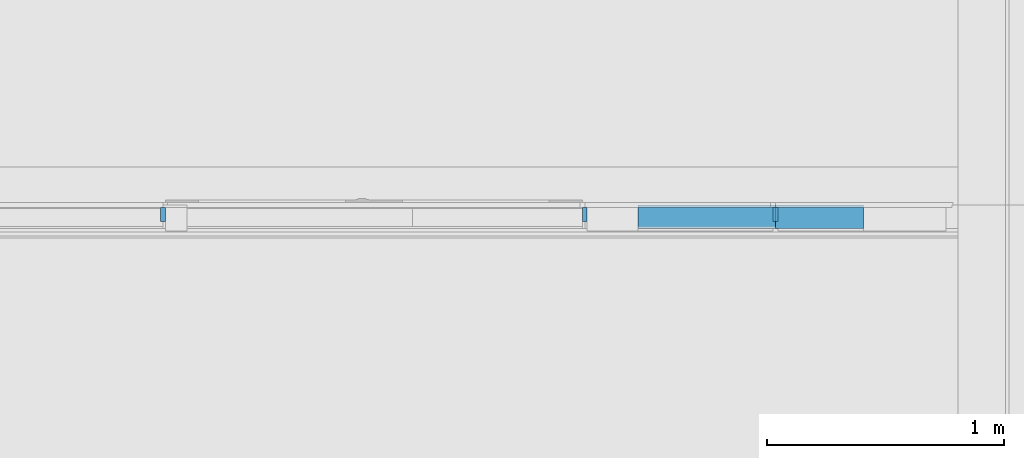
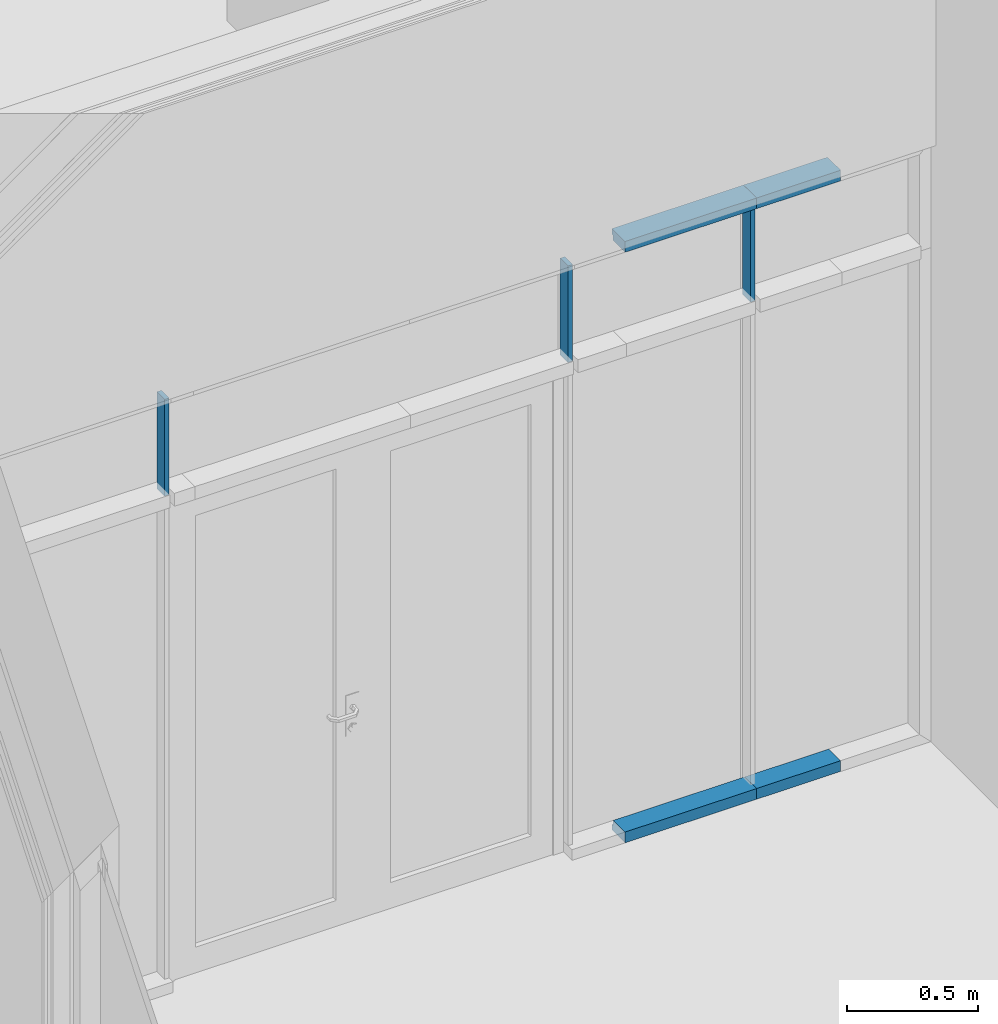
# One storey, part 47 of 260: 7 members, 1 element without a shape of its own.
"""IFC2X3 building model written with IfcOpenShell, lengths in millimetres."""

from ifc_helpers import new_model, entity, si_unit, converted_unit, derived_unit, money_unit, direction, frame, origin_with_axes, place, context, subcontext, project, spatial, faceted_brep, source, transform, mapped, material, type_object, element, aggregate, save


model = new_model("IFC2X3")

# Units and contexts
model_context = context("Model", 3, precision=0.01, world=origin_with_axes(), true_north=direction((0.0, 1.0)))
body_context = subcontext(model_context, "Body", "Model", "MODEL_VIEW")
ifc_project = project(units=[si_unit("LENGTHUNIT", "METRE", prefix="MILLI"), si_unit("AREAUNIT", "SQUARE_METRE"), si_unit("VOLUMEUNIT", "CUBIC_METRE"), converted_unit("PLANEANGLEUNIT", "DEGREE", entity("IfcPlaneAngleMeasure", 0.0174532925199), si_unit("PLANEANGLEUNIT", "RADIAN"), dimensions=[0, 0, 0, 0, 0, 0, 0]), money_unit("EUR"), converted_unit("TIMEUNIT", "Year", entity("IfcTimeMeasure", 31556926.0), si_unit("TIMEUNIT", "SECOND"), dimensions=[0, 0, 1, 0, 0, 0, 0]), si_unit("MASSUNIT", "GRAM", prefix="KILO"), si_unit("THERMODYNAMICTEMPERATUREUNIT", "DEGREE_CELSIUS"), si_unit("LUMINOUSINTENSITYUNIT", "LUMEN"), si_unit("ENERGYUNIT", "JOULE", prefix="MEGA"), derived_unit("THERMALCONDUCTANCEUNIT", [(si_unit("POWERUNIT", "WATT"), 1), (si_unit("LENGTHUNIT", "METRE"), -1), (si_unit("THERMODYNAMICTEMPERATUREUNIT", "KELVIN"), -1)]), derived_unit("SPECIFICHEATCAPACITYUNIT", [(si_unit("ENERGYUNIT", "JOULE"), 1), (si_unit("MASSUNIT", "GRAM", prefix="KILO"), -1), (si_unit("THERMODYNAMICTEMPERATUREUNIT", "KELVIN"), -1)]), derived_unit("MASSDENSITYUNIT", [(si_unit("MASSUNIT", "GRAM", prefix="KILO"), 1), (si_unit("VOLUMEUNIT", "CUBIC_METRE"), -1)])], contexts=[model_context])

# Site, building, storey
site_placement = place(None, origin_with_axes())
site = spatial("IfcSite", under=ifc_project, at=site_placement, Name="Kolde pst 67a", CompositionType="ELEMENT")
building_placement = place(site_placement, origin_with_axes())
building = spatial("IfcBuilding", under=site, at=building_placement, Name="Riigigümnaasium", CompositionType="ELEMENT")
storey_placement = place(building_placement, origin_with_axes())
storey = spatial("IfcBuildingStorey", under=building, at=storey_placement, Name="1. korrus", CompositionType="ELEMENT", Elevation=0.0)

# Curtain wall, members
curtain_wall_type = type_object("IfcCurtainWallType", Name="Curtain Wall Type", PredefinedType="NOTDEFINED")
curtain_wall_placement = place(storey_placement, frame((32274.8343542, 56679.9979478, 0.0), z_axis=(0.0, 0.0, 1.0), x_axis=(1.0, 0.0, 0.0)))
curtain_wall = element("IfcCurtainWall", 1, at=curtain_wall_placement, inside=storey, type_object=curtain_wall_type, Name="KLAASSEIN")
ifc_material = material(Name="_GENEERILINE MATERJAL")
member_type_1 = type_object("IfcMemberType", Name="Boundary Frame 50 x 100", PredefinedType="MEMBER")
shared_shape_1 = source(origin_with_axes(), body_context, "Body", "Brep", [
    faceted_brep([(-50.0, -10.0, 0.0), (-50.0, -100.0, 0.0), (-50.0, -100.0, 370.459597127), (-50.0, -10.0, 370.459597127), (-25.0, -10.0, 0.0), (-25.0, 0.0, 0.0), (0.0, 0.0, 0.0), (0.0, -100.0, 0.0), (0.0, -100.0, 370.459597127), (-25.0, -10.0, 370.459597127), (0.0, 0.0, 370.459597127), (-25.0, 0.0, 370.459597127)], [[[0, 1, 2, 3]], [[4, 5, 6, 7, 1, 0]], [[1, 7, 8, 2]], [[9, 3, 2, 8, 10, 11]], [[9, 4, 0, 3]], [[5, 4, 9, 11]], [[11, 10, 6, 5]], [[7, 6, 10, 8]]]),
])
member_1_placement = place(curtain_wall_placement, frame((3197.20572557, 0.0, 0.0), z_axis=(1.0, 0.0, 0.0), x_axis=(0.0, 0.0, 1.0)))
member_1 = element("IfcMember", 2, at=member_1_placement, type_object=member_type_1, material=ifc_material, Name="RF RAAM SERV-199", ObjectType="MEMBER", context=body_context, shape_type="MappedRepresentation", body=[
    mapped(shared_shape_1, transform((0.0, 0.0, 0.0), x_axis=(-1.0, 0.0, 0.0), y_axis=(0.0, -1.0, 0.0), z_axis=(0.0, 0.0, 1.0))),
])
member_2_placement = place(curtain_wall_placement, frame((3567.6653227, 0.0, 2800.00008345), z_axis=(-1.0, 0.0, 0.0), x_axis=(0.0, 0.0, -1.0)))
member_2 = element("IfcMember", 3, at=member_2_placement, type_object=member_type_1, material=ifc_material, Name="RF RAAM SERV-214", ObjectType="MEMBER", context=body_context, shape_type="MappedRepresentation", body=[
    mapped(shared_shape_1, transform((0.0, 0.0, 0.0), x_axis=(-1.0, 0.0, 0.0), y_axis=(0.0, -1.0, 0.0), z_axis=(0.0, 0.0, 1.0))),
])
shared_shape_2 = source(origin_with_axes(), body_context, "Body", "Brep", [
    faceted_brep([(-50.0, -10.0, 0.0), (-50.0, -100.0, 0.0), (-50.0, -100.0, 579.540402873), (-50.0, -10.0, 579.540402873), (-25.0, -10.0, 0.0), (-25.0, 0.0, 0.0), (0.0, 0.0, 0.0), (0.0, -100.0, 0.0), (0.0, -100.0, 579.540402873), (-25.0, -10.0, 579.540402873), (0.0, 0.0, 579.540402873), (-25.0, 0.0, 579.540402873)], [[[0, 1, 2, 3]], [[4, 5, 6, 7, 1, 0]], [[1, 7, 8, 2]], [[9, 3, 2, 8, 10, 11]], [[9, 4, 0, 3]], [[5, 4, 9, 11]], [[11, 10, 6, 5]], [[7, 6, 10, 8]]]),
])
member_3_placement = place(curtain_wall_placement, frame((2617.6653227, 0.0, 0.0), z_axis=(1.0, 0.0, 0.0), x_axis=(0.0, 0.0, 1.0)))
member_3 = element("IfcMember", 4, at=member_3_placement, type_object=member_type_1, material=ifc_material, Name="RF RAAM SERV-199", ObjectType="MEMBER", context=body_context, shape_type="MappedRepresentation", body=[
    mapped(shared_shape_2, transform((0.0, 0.0, 0.0), x_axis=(-1.0, 0.0, 0.0), y_axis=(0.0, -1.0, 0.0), z_axis=(0.0, 0.0, 1.0))),
])
member_4_placement = place(curtain_wall_placement, frame((3197.20572509, 0.0, 2800.00008345), z_axis=(-1.0, 0.0, 0.0), x_axis=(0.0, 0.0, -1.0)))
member_4 = element("IfcMember", 5, at=member_4_placement, type_object=member_type_1, material=ifc_material, Name="RF RAAM SERV-204", ObjectType="MEMBER", context=body_context, shape_type="MappedRepresentation", body=[
    mapped(shared_shape_2, transform((0.0, 0.0, 0.0), x_axis=(-1.0, 0.0, 0.0), y_axis=(0.0, -1.0, 0.0), z_axis=(0.0, 0.0, 1.0))),
])
member_type_2 = type_object("IfcMemberType", Name="Mullion Frame 20 x 70", PredefinedType="MEMBER")
shared_shape_3 = source(origin_with_axes(), body_context, "Body", "Brep", [
    faceted_brep([(0.0, -10.0, -1.60562674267e-08), (-10.0, -10.0, -1.60562674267e-08), (-10.0, -10.0, 450.000084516), (0.0, -10.0, 450.000084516), (10.0, -10.0, 450.000084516), (10.0, -10.0, -1.60562674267e-08), (10.0, -70.0, -1.60562674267e-08), (-10.0, -70.0, -1.60562674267e-08), (-10.0, -70.0, 450.000083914), (10.0, -70.0, 450.000083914)], [[[0, 1, 2, 3, 4, 5]], [[5, 6, 7, 1, 0]], [[2, 1, 7, 8]], [[3, 2, 8, 9, 4]], [[4, 9, 6, 5]], [[8, 7, 6, 9]]]),
])
member_5_placement = place(curtain_wall_placement, frame((617.166211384, 0.0, 2300.0), z_axis=(1.60562735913e-09, 0.0, 1.0), x_axis=(-1.0, 0.0, 1.60562735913e-09)))
member_5 = element("IfcMember", 6, at=member_5_placement, type_object=member_type_2, material=ifc_material, Name="RF RAAM VERT-389", ObjectType="MEMBER", context=body_context, shape_type="MappedRepresentation", body=[
    mapped(shared_shape_3, transform((0.0, 0.0, 0.0), x_axis=(-1.0, 0.0, 1.60562735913e-09), y_axis=(0.0, -1.0, 0.0), z_axis=(1.60562735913e-09, 0.0, 1.0))),
])
member_6_placement = place(curtain_wall_placement, frame((2394.22500466, 0.0, 2300.0), z_axis=(-1.01545919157e-08, 0.0, 1.0), x_axis=(-1.0, 0.0, -1.01545919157e-08)))
member_6 = element("IfcMember", 7, at=member_6_placement, type_object=member_type_2, material=ifc_material, Name="RF RAAM VERT-390", ObjectType="MEMBER", context=body_context, shape_type="MappedRepresentation", body=[
    mapped(shared_shape_3, transform((0.0, 0.0, 0.0), x_axis=(-1.0, 0.0, -1.01545919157e-08), y_axis=(0.0, -1.0, 0.0), z_axis=(-1.01545919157e-08, 0.0, 1.0))),
])
member_7_placement = place(curtain_wall_placement, frame((3197.20572557, 0.0, 2300.0), z_axis=(-9.63396312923e-10, 0.0, 1.0), x_axis=(-1.0, 0.0, -9.63396312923e-10)))
member_7 = element("IfcMember", 8, at=member_7_placement, type_object=member_type_2, material=ifc_material, Name="RF RAAM VERT-391", ObjectType="MEMBER", context=body_context, shape_type="MappedRepresentation", body=[
    mapped(shared_shape_3, transform((0.0, 0.0, 0.0), x_axis=(-1.0, 0.0, -9.63396312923e-10), y_axis=(0.0, -1.0, 0.0), z_axis=(-9.63396312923e-10, 0.0, 1.0))),
])
aggregate(curtain_wall, [member_1, member_3, member_4, member_5, member_6, member_7, member_2])

save(model, "model.ifc")
